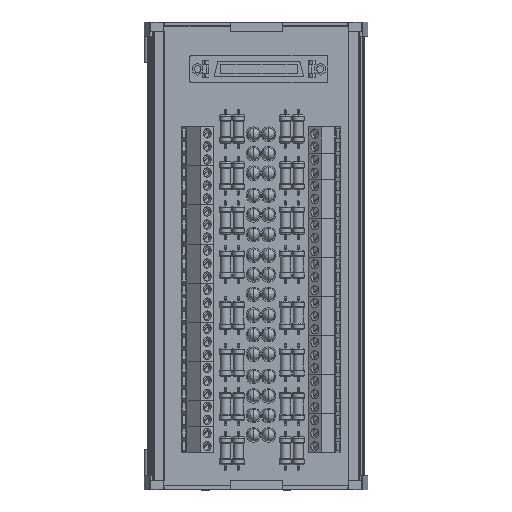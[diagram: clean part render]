
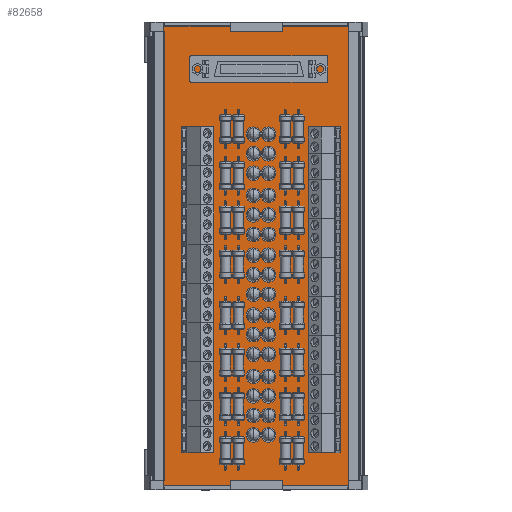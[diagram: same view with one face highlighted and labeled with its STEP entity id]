
A CAD part, top view. The second image highlights one B-rep face of the part: STEP entity #82658.
In plain terms, the highlighted planar face has unit normal (0, 0, 1).
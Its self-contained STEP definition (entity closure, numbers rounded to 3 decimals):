
#5840 = VERTEX_POINT ( 'NONE', #34928 ) ;
#6727 = CARTESIAN_POINT ( 'NONE',  ( 2134.159, 1242.237, 0. ) ) ;
#14428 = VERTEX_POINT ( 'NONE', #6727 ) ;
#25712 = ORIENTED_EDGE ( 'NONE', *, *, #122416, .F. ) ;
#26637 = LINE ( 'NONE', #173001, #133117 ) ;
#31305 = DIRECTION ( 'NONE',  ( 1., 0., 0. ) ) ;
#31971 = VERTEX_POINT ( 'NONE', #93717 ) ;
#34208 = CARTESIAN_POINT ( 'NONE',  ( 2310.659, 1242.237, 0. ) ) ;
#34928 = CARTESIAN_POINT ( 'NONE',  ( 2310.659, 1169.737, 0. ) ) ;
#38540 = VECTOR ( 'NONE', #31305, 1000. ) ;
#39099 = EDGE_CURVE ( 'NONE', #5840, #31971, #170652, .T. ) ;
#48797 = VERTEX_POINT ( 'NONE', #34208 ) ;
#50312 = DIRECTION ( 'NONE',  ( 0., 0., 1. ) ) ;
#53984 = ORIENTED_EDGE ( 'NONE', *, *, #39099, .F. ) ;
#57886 = VECTOR ( 'NONE', #144925, 1000. ) ;
#58120 = EDGE_CURVE ( 'NONE', #14428, #48797, #67847, .T. ) ;
#58680 = DIRECTION ( 'NONE',  ( 0., 1., 0. ) ) ;
#63262 = FACE_OUTER_BOUND ( 'NONE', #159825, .T. ) ;
#67847 = LINE ( 'NONE', #139214, #38540 ) ;
#78460 = ORIENTED_EDGE ( 'NONE', *, *, #58120, .F. ) ;
#82658 = ADVANCED_FACE ( 'N', ( #63262 ), #167687, .T. ) ;
#86742 = CARTESIAN_POINT ( 'NONE',  ( 2134.159, 1258.237, 0. ) ) ;
#93717 = CARTESIAN_POINT ( 'NONE',  ( 2134.159, 1169.737, 0. ) ) ;
#122416 = EDGE_CURVE ( 'NONE', #48797, #5840, #26637, .T. ) ;
#122767 = LINE ( 'NONE', #86742, #141549 ) ;
#129150 = DIRECTION ( 'NONE',  ( 1., 0., 0. ) ) ;
#131479 = CARTESIAN_POINT ( 'NONE',  ( 2214.559, 1169.737, 0. ) ) ;
#133117 = VECTOR ( 'NONE', #133910, 1000. ) ;
#133910 = DIRECTION ( 'NONE',  ( 0., -1., 0. ) ) ;
#139214 = CARTESIAN_POINT ( 'NONE',  ( 2310.559, 1242.237, 0. ) ) ;
#139591 = EDGE_CURVE ( 'NONE', #31971, #14428, #122767, .T. ) ;
#141549 = VECTOR ( 'NONE', #58680, 1000. ) ;
#144925 = DIRECTION ( 'NONE',  ( -1., 0., 0. ) ) ;
#159825 = EDGE_LOOP ( 'NONE', ( #53984, #25712, #78460, #173145 ) ) ;
#167687 = PLANE ( 'NONE',  #170318 ) ;
#169998 = CARTESIAN_POINT ( 'NONE',  ( 0., 0., 0. ) ) ;
#170318 = AXIS2_PLACEMENT_3D ( 'NONE', #169998, #50312, #129150 ) ;
#170652 = LINE ( 'NONE', #131479, #57886 ) ;
#173001 = CARTESIAN_POINT ( 'NONE',  ( 2310.659, 1155.237, 0. ) ) ;
#173145 = ORIENTED_EDGE ( 'NONE', *, *, #139591, .F. ) ;
